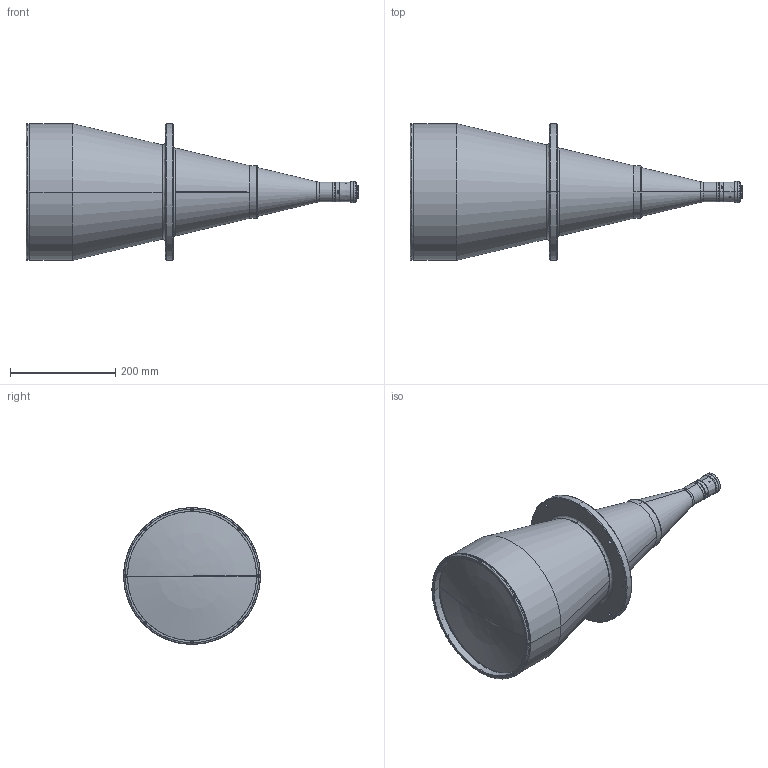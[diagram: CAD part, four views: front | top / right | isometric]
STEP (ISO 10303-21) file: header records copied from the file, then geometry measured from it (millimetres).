
FILE_DESCRIPTION(('LS-TCL-0233'),'2;1');
FILE_NAME('LS-TCL-0233.stp','2026-10-15T21:54:54',('LumaSpec Vision'),('LumaSpec Vision'),'LumaSpec Vision','LumaSpec Vision','');
FILE_SCHEMA(('AUTOMOTIVE_DESIGN { 1 0 10303 214 1 1 1 1 }'));
Length unit declared in the file: millimetre
Products named in the file (235): LumaSpec Vision
Assembly tree (234 placements, depth 2):
  LumaSpec Vision
    LumaSpec Vision
    LumaSpec Vision
    LumaSpec Vision
    LumaSpec Vision
    LumaSpec Vision
    LumaSpec Vision
    LumaSpec Vision
    LumaSpec Vision
    LumaSpec Vision
    LumaSpec Vision
    LumaSpec Vision
    LumaSpec Vision
    LumaSpec Vision
    LumaSpec Vision
    LumaSpec Vision
    LumaSpec Vision
    LumaSpec Vision
    LumaSpec Vision
    LumaSpec Vision
    LumaSpec Vision
    LumaSpec Vision
    LumaSpec Vision
    LumaSpec Vision
    LumaSpec Vision
    LumaSpec Vision
    LumaSpec Vision
    LumaSpec Vision
    LumaSpec Vision
    LumaSpec Vision
    LumaSpec Vision
    LumaSpec Vision
    LumaSpec Vision
    LumaSpec Vision
    LumaSpec Vision
    LumaSpec Vision
    LumaSpec Vision
    LumaSpec Vision
    LumaSpec Vision
    LumaSpec Vision
    LumaSpec Vision
    LumaSpec Vision
    LumaSpec Vision
    LumaSpec Vision
    LumaSpec Vision
    LumaSpec Vision
    LumaSpec Vision
    LumaSpec Vision
    LumaSpec Vision
    LumaSpec Vision
    LumaSpec Vision
    LumaSpec Vision
    LumaSpec Vision
    LumaSpec Vision
    LumaSpec Vision
    LumaSpec Vision
    LumaSpec Vision
    LumaSpec Vision
    LumaSpec Vision
    LumaSpec Vision
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Bounding box: 631.7 x 260 x 260 mm (x, y, z)
Surface area: 451428.2 mm2 (no closed solid volume)
Topology: 0 solids, 234 shells, 234 faces, 4660 edges, 4649 vertices
Faces by surface type: revolution 121, bspline 113
Entity records: 76959 total; most frequent: CARTESIAN_POINT 31599, B_SPLINE_CURVE_WITH_KNOTS 8396, ORIENTED_EDGE 4649, EDGE_CURVE 4649, VERTEX_POINT 4649, SURFACE_CURVE 4649, PCURVE 4649, DEFINITIONAL_REPRESENTATION 4649
